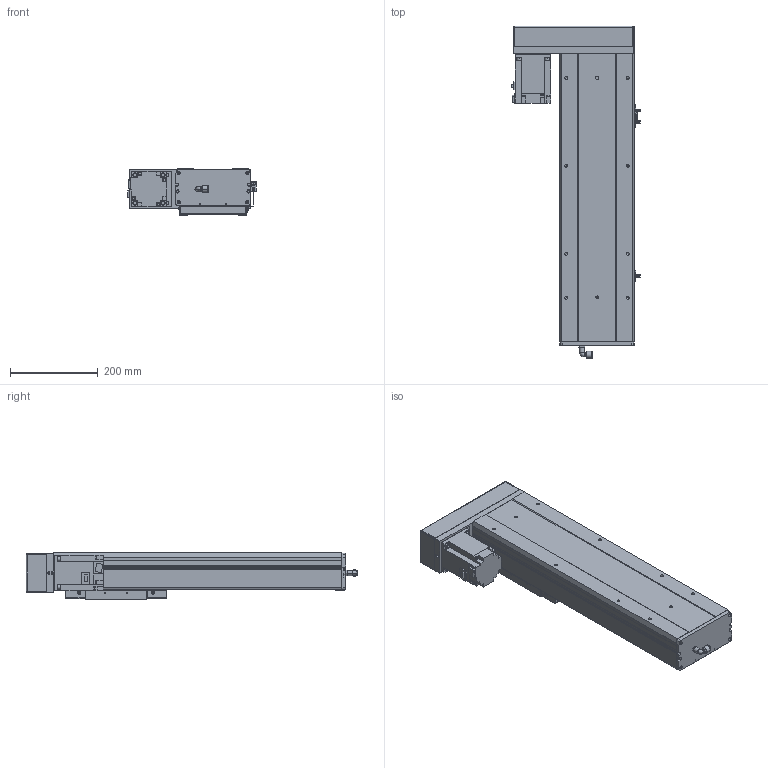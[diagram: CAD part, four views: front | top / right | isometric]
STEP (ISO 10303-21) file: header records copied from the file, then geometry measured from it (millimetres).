
FILE_DESCRIPTION (( 'STEP AP203' ), '1' );
FILE_NAME ('7.STEP', '2021-01-06T02:22:51', ( '' ), ( '' ), 'SwSTEP 2.0', 'SolidWorks 2016', '' );
FILE_SCHEMA (( 'CONFIG_CONTROL_DESIGN' ));
Length unit declared in the file: millimetre
Products named in the file (11): BCH17-BR-10; BCH17-06-BR-T75; FS-33-T75; BCH17-BR-04; BCH17-BR-03; 7; BCH17-BR-菁釱; M75; BCH17-BR-01; BCH17-BR-11; BCH17-BR-HZ
Assembly tree (13 placements, depth 2):
  7
    BCH17-BR-菁釱
    BCH17-BR-01
    BCH17-BR-03  x2
    BCH17-BR-04  x3
    BCH17-BR-10
    BCH17-BR-HZ
    BCH17-06-BR-T75
    BCH17-BR-11
    FS-33-T75
    M75
Bounding box: 293 x 754.93 x 107 mm (x, y, z)
Volume: 5872658.1 mm3; surface area: 1080955.3 mm2
Topology: 20 solids, 20 shells, 1783 faces, 4718 edges, 3017 vertices
Faces by surface type: plane 1085, cylinder 502, cone 94, bspline 88, sphere 12, torus 2
Entity records: 54957 total; most frequent: CARTESIAN_POINT 16384, ORIENTED_EDGE 7940, DIRECTION 7350, EDGE_CURVE 3970, VECTOR 2664, LINE 2664, VERTEX_POINT 2565, AXIS2_PLACEMENT_3D 2343
